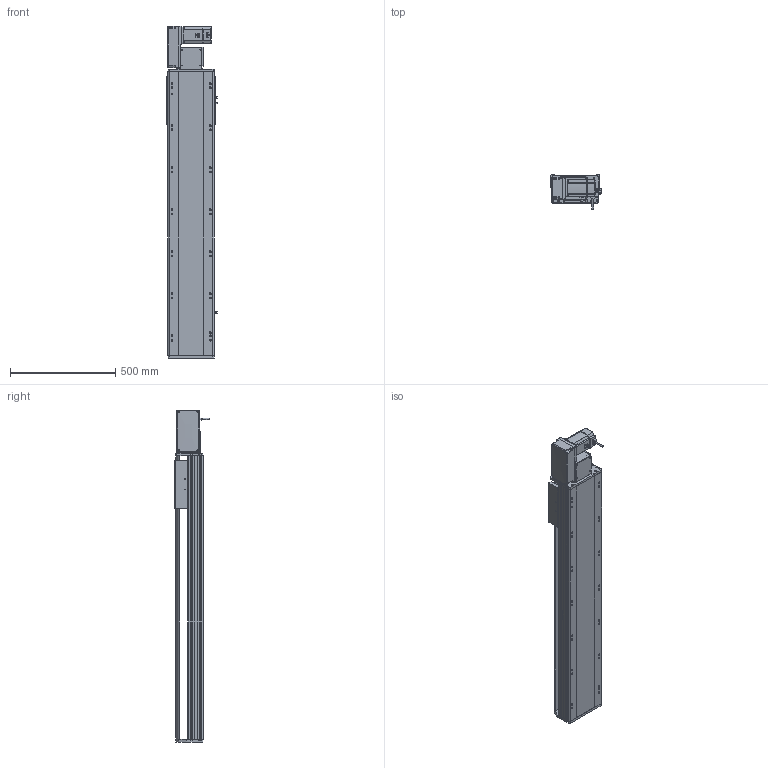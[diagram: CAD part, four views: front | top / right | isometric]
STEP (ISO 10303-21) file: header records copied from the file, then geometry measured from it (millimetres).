
FILE_DESCRIPTION (( 'STEP AP214' ), '1' );
FILE_NAME ('RTB22S-XX-1000-L-M75-C4.STEP', '2025-12-12T03:16:44', ( '' ), ( '' ), 'SwSTEP 2.0', 'SolidWorks 2018', '' );
FILE_SCHEMA (( 'AUTOMOTIVE_DESIGN' ));
Length unit declared in the file: millimetre
Products named in the file (14): RTB22S-GY-017P^RTB22S-L-々湍釱蚾饜_RTB22S-XX-XX-L-M75-C4; RTB22S-XX-1000-L-M75-C4; RTB22S-L-004賑釱^RTB22S-XX-XX-L-M75-C4; RTB22S-GY-018P^RTB22S-L-々湍釱蚾饜_RTB22S-XX-XX-L-M75-C4; RTB22S-GY-001耜裔^RTB22S-XX-XX-L-M75-C4; OMRON EE-SX672 传感器^RTB22S-XX-XX-L-M75-C4; RTB22S-GY-005P^RTB22S-L-々湍釱蚾饜_RTB22S-XX-XX-L-M75-C4; RTH22-GY-013外置感应片^RTB22S-XX-XX-L-M75-C4; RTB22S-GY-014--々湍釱^RTB22S-L-々湍釱蚾饜_RTB22S-XX-XX-L-M75-C4; RTB22S-L-々湍釱蚾饜^RTB22S-XX-XX-L-M75-C4; RTB22S-GY-007奻裔^RTB22S-XX-XX-L-M75-C4; RTB22S-GY-008-M75--萇儂啣^RTB22S-L-々湍釱蚾饜_RTB22S-XX-XX-L-M75-C4; 750W萇儂^RTB22S-XX-XX-L-M75-C4; RTB22S-L-011菁釱^RTB22S-XX-XX-L-M75-C4
Assembly tree (16 placements, depth 3):
  RTB22S-XX-1000-L-M75-C4
    RTB22S-L-011菁釱^RTB22S-XX-XX-L-M75-C4
    750W萇儂^RTB22S-XX-XX-L-M75-C4
    RTB22S-L-004賑釱^RTB22S-XX-XX-L-M75-C4
    OMRON EE-SX672 传感器^RTB22S-XX-XX-L-M75-C4  x3
    RTH22-GY-013外置感应片^RTB22S-XX-XX-L-M75-C4
    RTB22S-GY-007奻裔^RTB22S-XX-XX-L-M75-C4
    RTB22S-GY-001耜裔^RTB22S-XX-XX-L-M75-C4
    RTB22S-L-々湍釱蚾饜^RTB22S-XX-XX-L-M75-C4
      RTB22S-GY-014--々湍釱^RTB22S-L-々湍釱蚾饜_RTB22S-XX-XX-L-M75-C4
      RTB22S-GY-017P^RTB22S-L-々湍釱蚾饜_RTB22S-XX-XX-L-M75-C4  x2
      RTB22S-GY-005P^RTB22S-L-々湍釱蚾饜_RTB22S-XX-XX-L-M75-C4
      RTB22S-GY-008-M75--萇儂啣^RTB22S-L-々湍釱蚾饜_RTB22S-XX-XX-L-M75-C4
      RTB22S-GY-018P^RTB22S-L-々湍釱蚾饜_RTB22S-XX-XX-L-M75-C4
Bounding box: 238.5 x 162.7 x 1579 mm (x, y, z)
Volume: 21293109.5 mm3; surface area: 2215109.2 mm2
Topology: 15 solids, 15 shells, 1965 faces, 5336 edges, 3422 vertices
Faces by surface type: plane 913, cylinder 610, bspline 296, cone 134, sphere 8, torus 4
Entity records: 52110 total; most frequent: CARTESIAN_POINT 15024, ORIENTED_EDGE 7468, DIRECTION 7168, EDGE_CURVE 3734, AXIS2_PLACEMENT_3D 2522, VERTEX_POINT 2426, LINE 2124, VECTOR 2124
